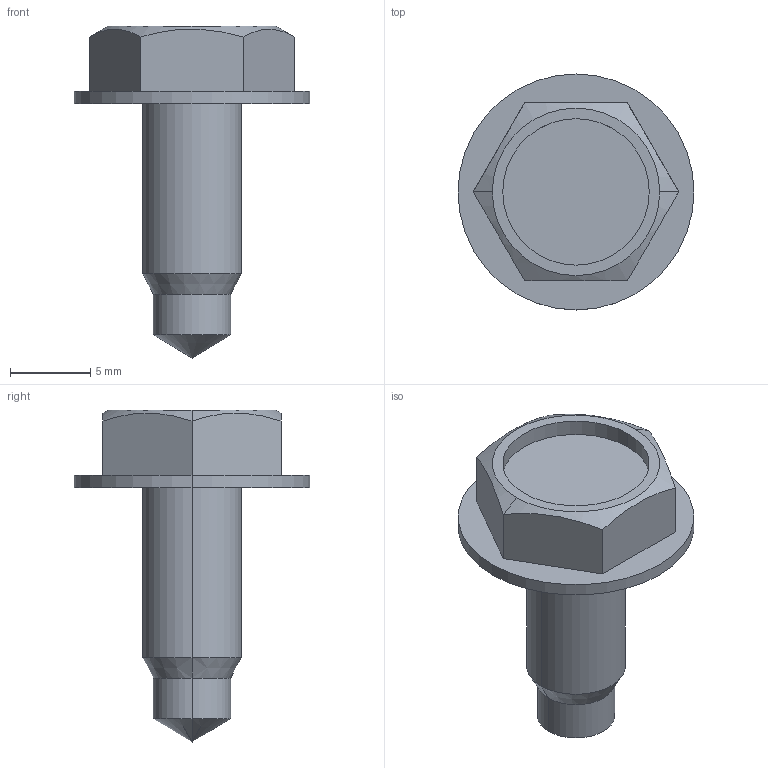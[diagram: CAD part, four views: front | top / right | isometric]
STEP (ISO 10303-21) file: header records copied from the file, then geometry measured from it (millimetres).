
FILE_DESCRIPTION((''),'2;1');
FILE_NAME('807-1943','2023-03-13T',('jenni.wallner'),(''),'PRO/ENGINEER BY PARAMETRIC TECHNOLOGY CORPORATION, 2012420','PRO/ENGINEER BY PARAMETRIC TECHNOLOGY CORPORATION, 2012420','');
FILE_SCHEMA(('CONFIG_CONTROL_DESIGN'));
Length unit declared in the file: inch
Products named in the file (1): 807-1943
Bounding box: 14.73 x 14.73 x 20.73 mm (x, y, z)
Volume: 900.9 mm3; surface area: 813 mm2
Topology: 1 solids, 1 shells, 24 faces, 52 edges, 31 vertices
Faces by surface type: plane 10, cylinder 8, cone 6
Entity records: 718 total; most frequent: CARTESIAN_POINT 159, DIRECTION 110, ORIENTED_EDGE 100, EDGE_CURVE 50, AXIS2_PLACEMENT_3D 42, VERTEX_POINT 31, EDGE_LOOP 27, VECTOR 26
